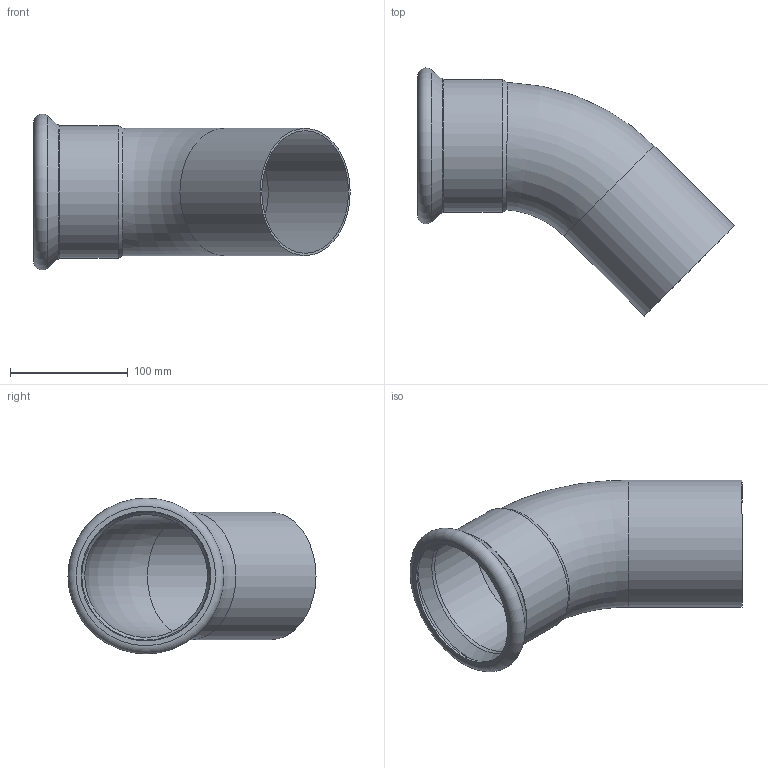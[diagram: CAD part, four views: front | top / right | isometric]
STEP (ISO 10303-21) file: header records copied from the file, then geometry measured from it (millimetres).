
FILE_DESCRIPTION((''),'2;1');
FILE_NAME('G:\Nirosan-Schmiedefeld\Technics\CAD\Bauteile VA\108\69040108(1).stp','2010-06-24T14:14:13',('herberg'),(''),'Autodesk Inventor 2009','Autodesk Inventor 2009','');
FILE_SCHEMA(('AUTOMOTIVE_DESIGN { 1 0 10303 214 1 1 1 1 }'));
Length unit declared in the file: millimetre
Products named in the file (1): 69040108(1)
Bounding box: 268.25 x 210.34 x 132.19 mm (x, y, z)
Volume: 190333.5 mm3; surface area: 191696.2 mm2
Topology: 1 solids, 1 shells, 18 faces, 35 edges, 20 vertices
Faces by surface type: cylinder 5, cone 4, torus 4, plane 3, bspline 2
Full cylindrical faces by diameter (mm): 104 x1, 108 x1, 108.7 x1, 110 x1, 112.7 x1
Entity records: 540 total; most frequent: CARTESIAN_POINT 215, DIRECTION 66, ORIENTED_EDGE 36, EDGE_LOOP 36, AXIS2_PLACEMENT_3D 33, VERTEX_POINT 18, EDGE_CURVE 18, FACE_OUTER_BOUND 18
